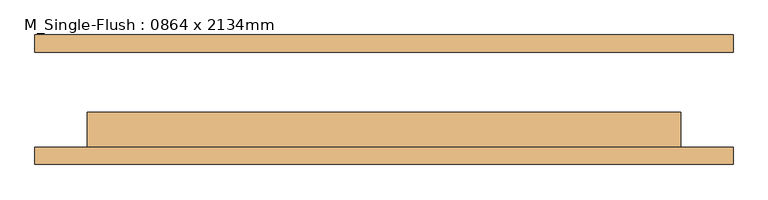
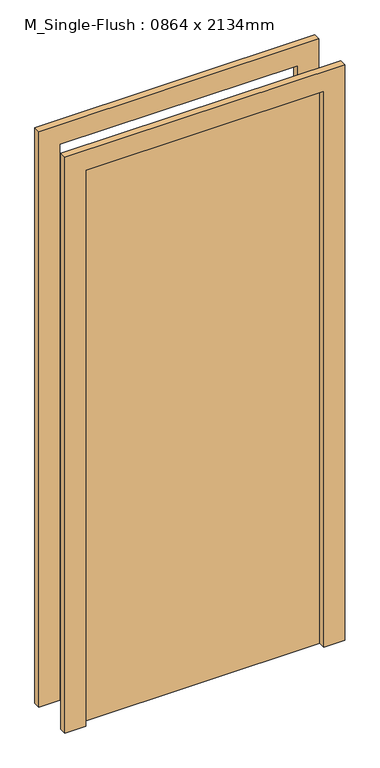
"""IFC4 building model written with IfcOpenShell, lengths in millimetres: door geometry, M_Single-Flush : 0864 x 2134mm."""

from ifc_helpers import new_model, si_unit, frame, origin, origin_with_axes, place, context, project, spatial, polyline, outline, extrude, source, transform, mapped, element, save


def m_single_flush_0864_x_2134mm_a6052287(model_context):
    return source(origin(), model_context, "Body", "SweptSolid", [
        extrude(outline(polyline([(2210.0, -508.0), (0.0, -508.0), (0.0, -432.0), (2134.0, -432.0), (2134.0, 432.0), (0.0, 432.0), (0.0, 508.0), (2210.0, 508.0), (2210.0, -508.0)])), frame((0.0, -94.25, 0.0), z_axis=(0.0, 1.0, 0.0), x_axis=(0.0, 0.0, 1.0)), (0.0, 0.0, 1.0), 25.0),
        extrude(outline(polyline([(2210.0, 508.0), (2210.0, -508.0), (0.0, -508.0), (0.0, -432.0), (2134.0, -432.0), (2134.0, 432.0), (0.0, 432.0), (0.0, 508.0), (2210.0, 508.0)])), frame((0.0, 69.25, 0.0), z_axis=(0.0, 1.0, 0.0), x_axis=(0.0, 0.0, 1.0)), (0.0, 0.0, 1.0), 25.0),
        extrude(outline(polyline([(432.0, -18.25), (432.0, -69.25), (-432.0, -69.25), (-432.0, -18.25), (432.0, -18.25)])), origin_with_axes(), (0.0, 0.0, 1.0), 2134.0),
    ])


if __name__ == "__main__":
    model = new_model("IFC4")
    model_context = context("Model", 3, world=origin())
    ifc_project = project(units=[si_unit("LENGTHUNIT", "METRE", prefix="MILLI")], contexts=[model_context])
    site = spatial("IfcSite", under=ifc_project)
    building = spatial("IfcBuilding", under=site)
    placement = place(None, origin())
    m_single_flush_0864_x_2134mm_shape = m_single_flush_0864_x_2134mm_a6052287(model_context)
    element("IfcDoor", 1, ObjectType="M_Single-Flush : 0864 x 2134mm", at=placement, inside=building, context=model_context, shape_type="MappedRepresentation", body=[
        mapped(m_single_flush_0864_x_2134mm_shape, transform((0.0, 0.0, 0.0), x_axis=(1.0, 0.0, 0.0), y_axis=(0.0, 1.0, 0.0), z_axis=(0.0, 0.0, 1.0))),
    ])
    save(model, "model.ifc")
